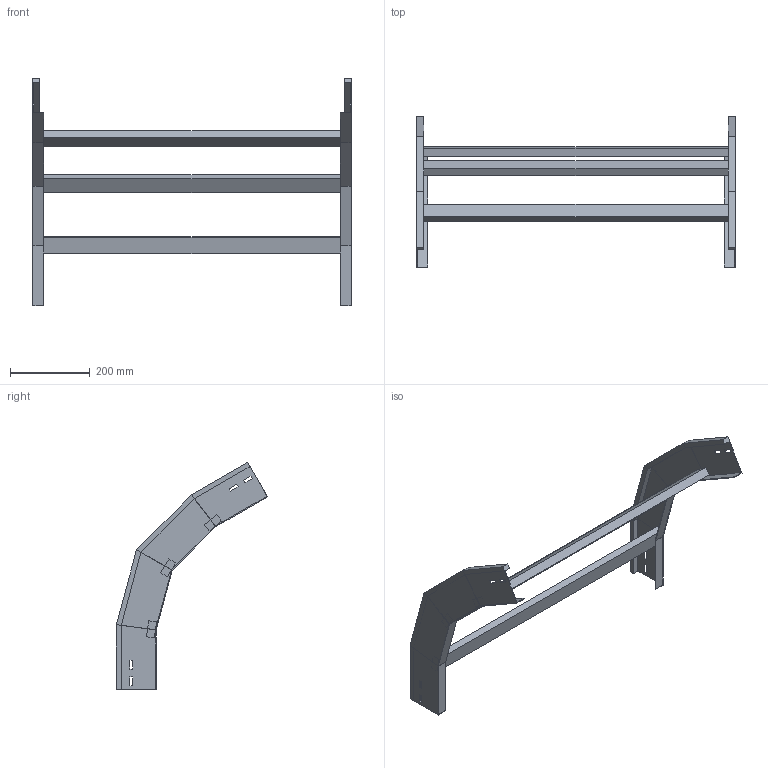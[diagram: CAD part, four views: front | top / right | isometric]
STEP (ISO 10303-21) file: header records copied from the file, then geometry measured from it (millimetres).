
FILE_DESCRIPTION (( 'STEP AP214' ), '1' );
FILE_NAME ('A2_41B3D800.step', '2025-02-21T14:56:53', ( '' ), ( '' ), 'SwSTEP 2.0', 'SolidWorks 2023', '' );
FILE_SCHEMA (( 'AUTOMOTIVE_DESIGN' ));
Length unit declared in the file: millimetre
Products named in the file (3): A2_41B3D800; LONGH.DISCESA_60°_H100_R300; TRAVERSINO_800
Assembly tree (5 placements, depth 2):
  A2_41B3D800
    LONGH.DISCESA_60°_H100_R300  x2
    TRAVERSINO_800  x3
Bounding box: 800 x 379.62 x 570.92 mm (x, y, z)
Volume: 2530764.7 mm3; surface area: 671133.5 mm2
Topology: 5 solids, 5 shells, 118 faces, 276 edges, 168 vertices
Faces by surface type: plane 118
Entity records: 1672 total; most frequent: CARTESIAN_POINT 276, ORIENTED_EDGE 264, DIRECTION 260, EDGE_CURVE 132, LINE 132, VECTOR 132, VERTEX_POINT 80, AXIS2_PLACEMENT_3D 64
